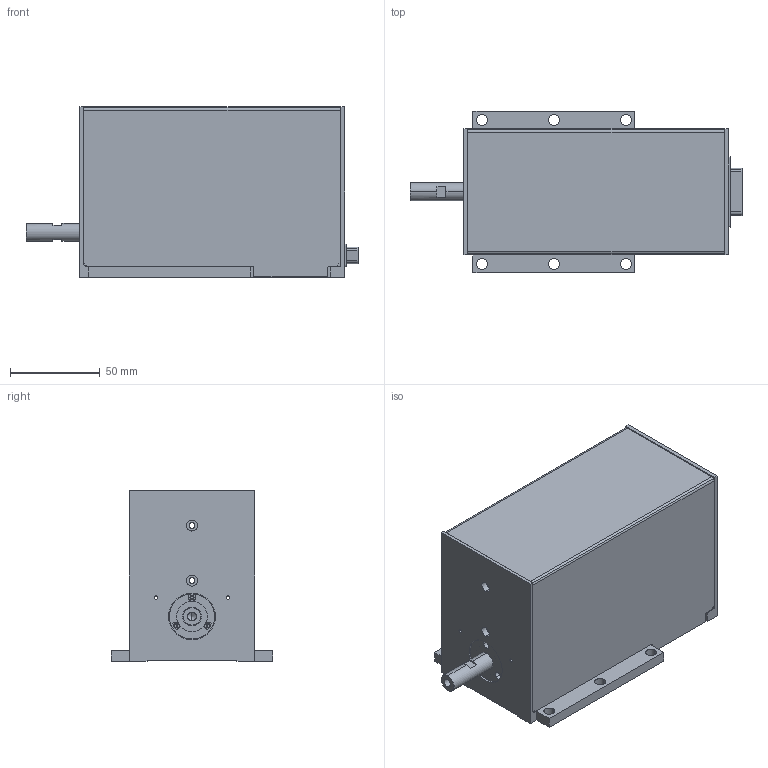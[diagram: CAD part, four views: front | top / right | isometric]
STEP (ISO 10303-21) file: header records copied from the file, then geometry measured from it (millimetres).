
FILE_DESCRIPTION((''),'2;1');
FILE_NAME('LAL95-050-7_F.stp','2005-09-26T14:57:28',(''),(''),'Mechanical Desktop 2005','Mechanical Desktop 2005',', , ');
FILE_SCHEMA(('CONFIG_CONTROL_DESIGN'));
Length unit declared in the file: millimetre
Products named in the file (2): LAL95-050-7_F; ~BODY-15
Assembly tree (1 placements, depth 2):
  LAL95-050-7_F
    ~BODY-15
Bounding box: 184.5 x 90 x 95 mm (x, y, z)
Volume: 210599.3 mm3; surface area: 134243.5 mm2
Topology: 4 solids, 4 shells, 574 faces, 1403 edges, 892 vertices
Faces by surface type: cylinder 264, plane 236, bspline 64, cone 10
Entity records: 17562 total; most frequent: CARTESIAN_POINT 3508, DIRECTION 3037, ORIENTED_EDGE 2800, EDGE_CURVE 1400, AXIS2_PLACEMENT_3D 1125, VERTEX_POINT 892, VECTOR 787, LINE 787
